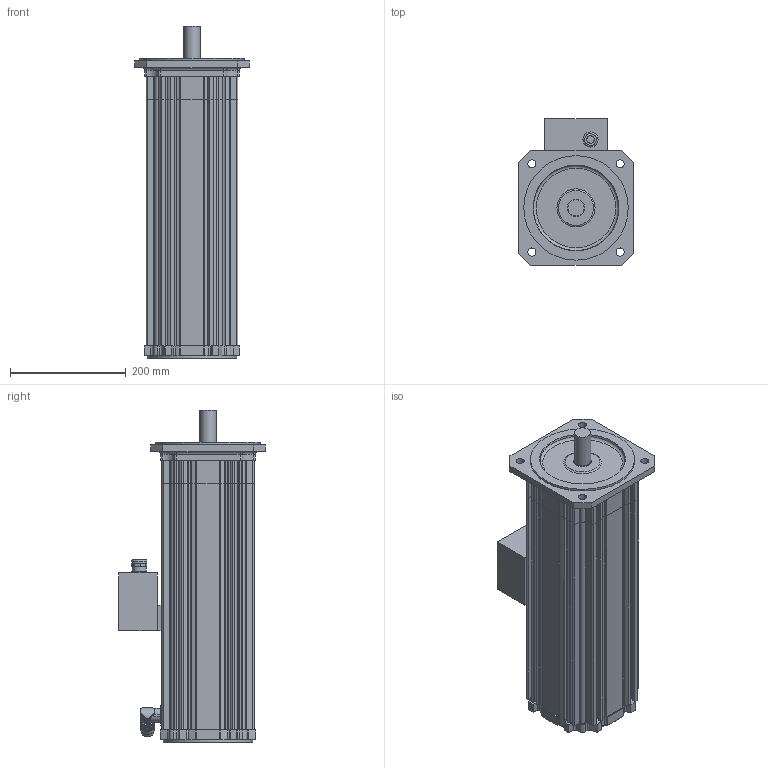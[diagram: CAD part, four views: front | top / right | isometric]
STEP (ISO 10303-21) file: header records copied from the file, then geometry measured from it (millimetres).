
FILE_DESCRIPTION(/* description */ (''),/* implementation_level */ '2;1');
FILE_NAME(/* name */ 'KSA8416_MC_Ix',/* time_stamp */ '2009-03-02T08:59:27+01:00',/* author */ (''),/* organization */ (''),/* preprocessor_version */ 'ST-DEVELOPER v8',/* originating_system */ 'UNIGRAPHICS SOLUTIONS - UNIGRAPHICS 18.0',/* authorisation */ '');
FILE_SCHEMA (('AUTOMOTIVE_DESIGN { 1 2 10303 214 0 1 1 1 }'));
Length unit declared in the file: millimetre
Products named in the file (7): 0280391600_0; Winkelflanschdose_0; Lagersch_8BS_0; Lagersch_8AS_0; 089107X_0; SK3958_0; KSA8412_MC_Ix_0
Assembly tree (6 placements, depth 3):
  KSA8412_MC_Ix_0
    089107X_0
    Lagersch_8AS_0
    Lagersch_8BS_0
    SK3958_0
      0280391600_0
    Winkelflanschdose_0
Bounding box: 198 x 253.35 x 572.5 mm (x, y, z)
Volume: 4072268.9 mm3; surface area: 994405.3 mm2
Topology: 7 solids, 7 shells, 832 faces, 2360 edges, 1563 vertices
Faces by surface type: cylinder 484, plane 323, torus 23, cone 2
Full cylindrical faces by diameter (mm): 13 x1, 14 x4, 16 x1, 20 x3, 21 x1, 21.5 x1, 23 x2, 24 x1, 26 x1, 28 x1, 30 x1, 35 x1, 143 x1, 149.6 x2, 151 x2, 154 x1, 180 x1
Entity records: 27709 total; most frequent: CARTESIAN_POINT 5454, DIRECTION 4726, ORIENTED_EDGE 4644, EDGE_CURVE 2322, AXIS2_PLACEMENT_3D 1729, VERTEX_POINT 1555, LINE 1268, VECTOR 1268
